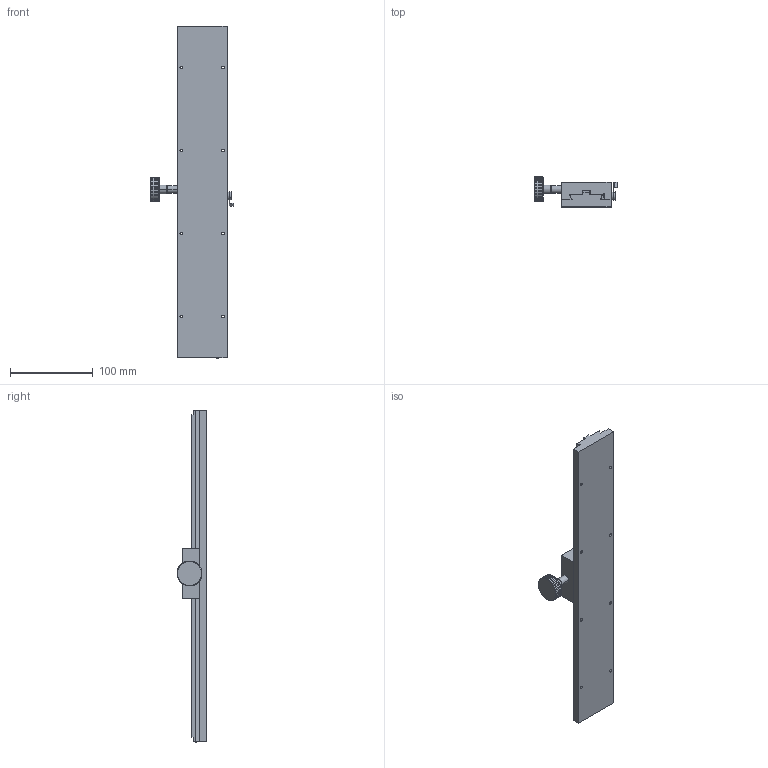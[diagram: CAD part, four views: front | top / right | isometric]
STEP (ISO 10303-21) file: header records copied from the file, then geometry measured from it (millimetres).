
FILE_DESCRIPTION (( 'STEP AP214' ), '1' );
FILE_NAME ('PT-DN60-400.STEP', '2022-08-27T08:45:08', ( '' ), ( '' ), 'SwSTEP 2.0', 'SolidWorks 2017', '' );
FILE_SCHEMA (( 'AUTOMOTIVE_DESIGN' ));
Length unit declared in the file: millimetre
Products named in the file (1): PT-DN60-400
Bounding box: 100.5 x 36 x 400 mm (x, y, z)
Surface area: 82946.9 mm2 (no closed solid volume)
Topology: 0 solids, 7 shells, 271 faces, 868 edges, 590 vertices
Faces by surface type: cylinder 217, plane 47, cone 6, bspline 1
Entity records: 11474 total; most frequent: CARTESIAN_POINT 3902, ORIENTED_EDGE 1579, DIRECTION 1510, EDGE_CURVE 869, VERTEX_POINT 590, AXIS2_PLACEMENT_3D 566, LINE 378, VECTOR 378
